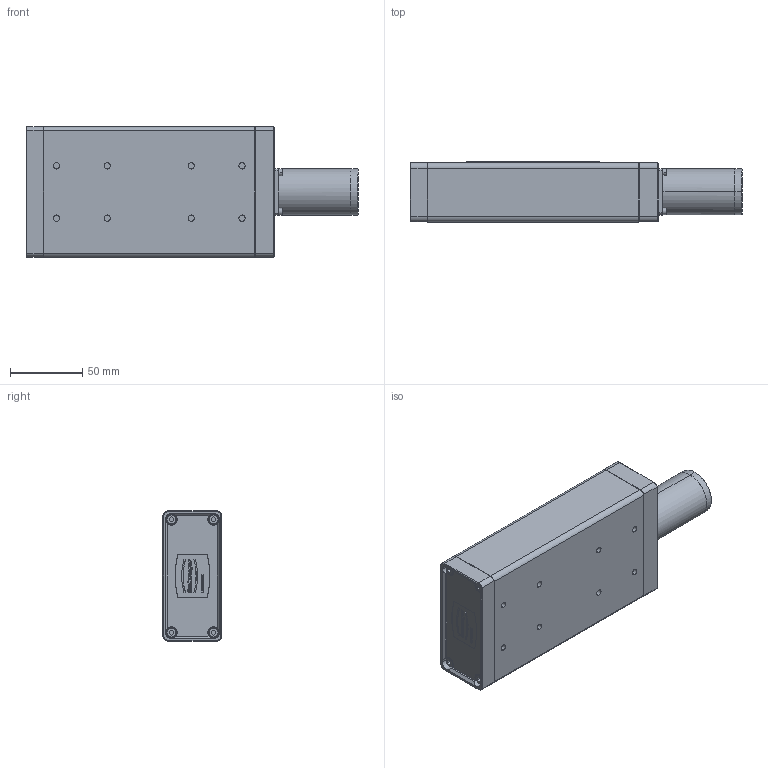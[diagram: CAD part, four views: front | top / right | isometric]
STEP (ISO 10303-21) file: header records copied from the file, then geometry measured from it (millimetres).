
FILE_DESCRIPTION((''),'2;1');
FILE_NAME('STM_LTP90_552389_ASM','2026-04-23T14:14:14',('profile'),(''),'CREO PARAMETRIC BY PTC INC, 2025123','CREO PARAMETRIC BY PTC INC, 2025123','');
FILE_SCHEMA(('AP242_MANAGED_MODEL_BASED_3D_ENGINEERING_MIM_LF { 1 0 10303 442 1 1 4 }'));
Length unit declared in the file: millimetre
Products named in the file (7): STM_GRUND_552385; AL_ALUMINIUM; STM_SCHIE_552383; STM_ABDEC_552382; STM_LTP90_552389_ASM
Assembly tree (3 placements, depth 2):
  AL_ALUMINIUM
  AL_ALUMINIUM
  AL_ALUMINIUM
  STM_LTP90_552389_ASM
    STM_GRUND_552385
    STM_SCHIE_552383
    STM_ABDEC_552382
Bounding box: 229 x 41.3 x 90 mm (x, y, z)
Volume: 563057.6 mm3; surface area: 109087.2 mm2
Topology: 3 solids, 3 shells, 903 faces, 2189 edges, 1382 vertices
Faces by surface type: plane 519, cylinder 181, extrusion 105, cone 98
Entity records: 39997 total; most frequent: CARTESIAN_POINT 10090, ORIENTED_EDGE 4378, DIRECTION 4206, PRESENTATION_STYLE_ASSIGNMENT 2299, STYLED_ITEM 2228, CURVE_STYLE 2225, EDGE_CURVE 2189, VECTOR 1614
